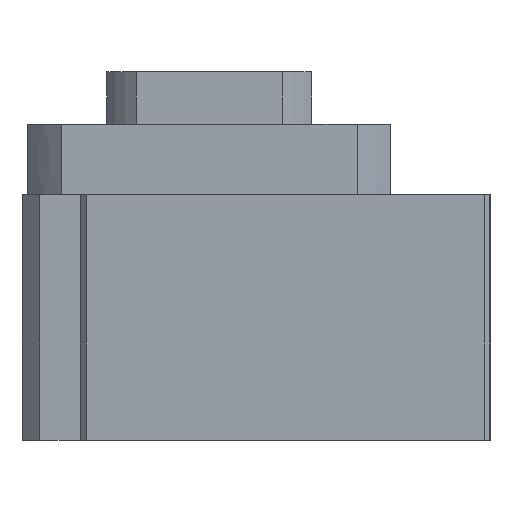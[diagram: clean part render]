
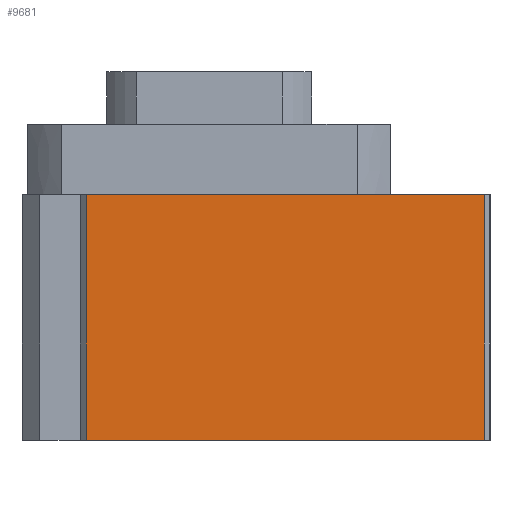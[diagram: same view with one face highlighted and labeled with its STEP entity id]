
A CAD part, left-side view. The second image highlights one B-rep face of the part: STEP entity #9681.
In plain terms, the highlighted planar face has unit normal (-1, 0, 0).
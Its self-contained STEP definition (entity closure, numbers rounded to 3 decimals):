
#9642=CARTESIAN_POINT('',(-53.,-47.,-42.));
#9643=VERTEX_POINT('Vertex169',#9642);
#9644=CARTESIAN_POINT('',(-53.,-47.,0.));
#9645=VERTEX_POINT('Vertex168',#9644);
#9646=CARTESIAN_POINT('',(-53.,-47.,-21.));
#9647=DIRECTION('',(0.,0.,1.));
#9648=VECTOR('',#9647,1.);
#9649=LINE('nurbsCrv168',#9646,#9648);
#9650=EDGE_CURVE('Edge168',#9643,#9645,#9649,.T.);
#9651=ORIENTED_EDGE('Edgeuse168',*,*,#9650,.T.);
#9652=CARTESIAN_POINT('',(-53.,21.,0.));
#9653=VERTEX_POINT('Vertex170',#9652);
#9654=CARTESIAN_POINT('',(-53.,-13.,0.));
#9655=DIRECTION('',(0.,1.,0.));
#9656=VECTOR('',#9655,1.);
#9657=LINE('nurbsCrv169',#9654,#9656);
#9658=EDGE_CURVE('Edge169',#9645,#9653,#9657,.T.);
#9659=ORIENTED_EDGE('Edgeuse169',*,*,#9658,.T.);
#9660=CARTESIAN_POINT('',(-53.,21.,-42.));
#9661=VERTEX_POINT('Vertex171',#9660);
#9662=CARTESIAN_POINT('',(-53.,21.,-21.));
#9663=DIRECTION('',(0.,0.,-1.));
#9664=VECTOR('',#9663,1.);
#9665=LINE('nurbsCrv170',#9662,#9664);
#9666=EDGE_CURVE('Edge170',#9653,#9661,#9665,.T.);
#9667=ORIENTED_EDGE('Edgeuse170',*,*,#9666,.T.);
#9668=CARTESIAN_POINT('',(-53.,-13.,-42.));
#9669=DIRECTION('',(0.,-1.,0.));
#9670=VECTOR('',#9669,1.);
#9671=LINE('nurbsCrv171',#9668,#9670);
#9672=EDGE_CURVE('Edge171',#9661,#9643,#9671,.T.);
#9673=ORIENTED_EDGE('Edgeuse171',*,*,#9672,.T.);
#9674=EDGE_LOOP('',(#9651,#9659,#9667,#9673));
#9675=FACE_OUTER_BOUND('',#9674,.T.);
#9676=CARTESIAN_POINT('',(-53.,-13.,-21.));
#9677=DIRECTION('',(-1.,0.,0.));
#9678=DIRECTION('',(0.,0.,1.));
#9679=AXIS2_PLACEMENT_3D('',#9676,#9677,#9678);
#9680=PLANE('nurbsSrf30',#9679);
#9681=ADVANCED_FACE('Face30',(#9675),#9680,.T.);
